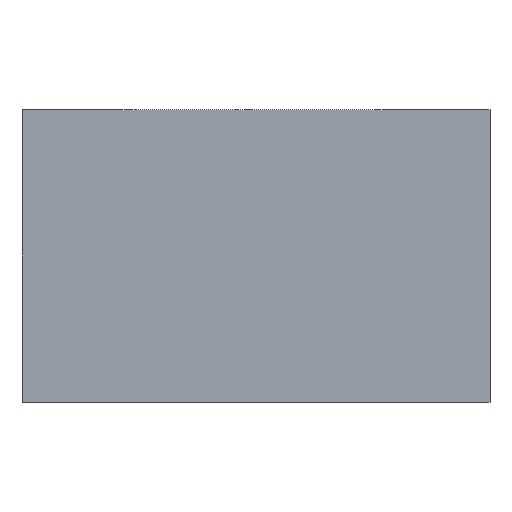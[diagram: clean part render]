
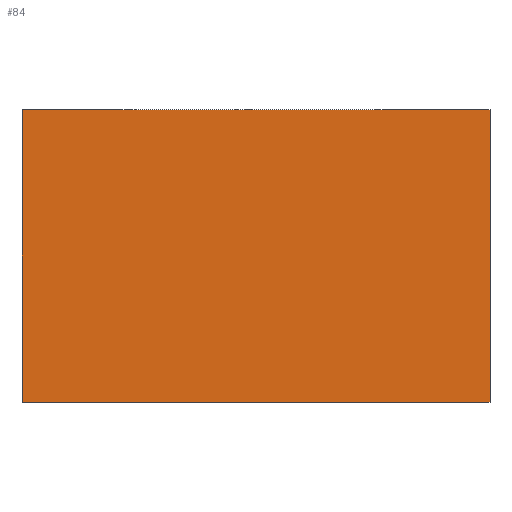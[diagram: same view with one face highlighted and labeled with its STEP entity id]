
A CAD part, front view. The second image highlights one B-rep face of the part: STEP entity #84.
In plain terms, the highlighted planar face has unit normal (0, -1, 0).
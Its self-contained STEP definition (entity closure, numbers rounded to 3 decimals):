
#84=ADVANCED_FACE('',(#188),#190,.F.);
#188=FACE_BOUND('',#189,.T.);
#189=EDGE_LOOP('',(#278,#279,#280,#281));
#190=PLANE('',#191);
#191=AXIS2_PLACEMENT_3D('',#192,#193,#194);
#192=CARTESIAN_POINT('',(75.,-14.,-45.));
#193=DIRECTION('',(0.,1.,0.));
#194=DIRECTION('',(0.,0.,1.));
#278=ORIENTED_EDGE('',*,*,#309,.T.);
#279=ORIENTED_EDGE('',*,*,#313,.T.);
#280=ORIENTED_EDGE('',*,*,#306,.T.);
#281=ORIENTED_EDGE('',*,*,#300,.T.);
#300=EDGE_CURVE('',#320,#321,#322,.T.);
#306=EDGE_CURVE('',#332,#320,#333,.T.);
#309=EDGE_CURVE('',#321,#337,#338,.T.);
#313=EDGE_CURVE('',#337,#332,#343,.T.);
#320=VERTEX_POINT('',#356);
#321=VERTEX_POINT('',#357);
#322=LINE('',#358,#359);
#332=VERTEX_POINT('',#382);
#333=LINE('',#383,#384);
#337=VERTEX_POINT('',#393);
#338=LINE('',#394,#395);
#343=LINE('',#407,#408);
#356=CARTESIAN_POINT('',(0.,-14.,-50.));
#357=CARTESIAN_POINT('',(80.,-14.,-50.));
#358=CARTESIAN_POINT('',(0.,-14.,-50.));
#359=VECTOR('',#360,1.);
#360=DIRECTION('',(1.,0.,0.));
#382=CARTESIAN_POINT('',(0.,-14.,0.));
#383=CARTESIAN_POINT('',(0.,-14.,0.));
#384=VECTOR('',#385,1.);
#385=DIRECTION('',(0.,0.,-1.));
#393=CARTESIAN_POINT('',(80.,-14.,0.));
#394=CARTESIAN_POINT('',(80.,-14.,-50.));
#395=VECTOR('',#396,1.);
#396=DIRECTION('',(0.,0.,1.));
#407=CARTESIAN_POINT('',(80.,-14.,0.));
#408=VECTOR('',#409,1.);
#409=DIRECTION('',(-1.,0.,0.));
